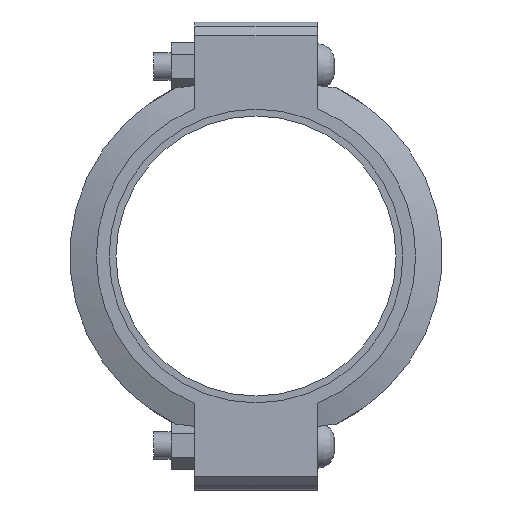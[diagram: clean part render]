
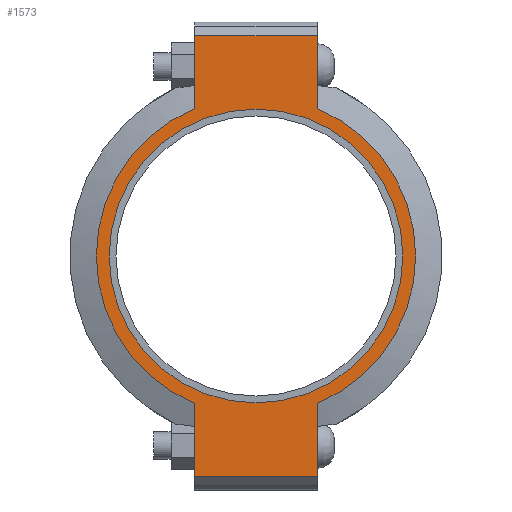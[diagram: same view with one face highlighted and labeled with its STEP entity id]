
A CAD part, left-side view. The second image highlights one B-rep face of the part: STEP entity #1573.
In plain terms, the highlighted planar face has unit normal (-1, 0, 0) as drawn and (0, 0, 1) by its records, which use the part's own axes.
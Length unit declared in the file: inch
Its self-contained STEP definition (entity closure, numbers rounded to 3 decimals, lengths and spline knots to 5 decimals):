
#144=LINE('',#2708,#233);
#155=LINE('',#2759,#244);
#161=LINE('',#2785,#250);
#163=LINE('',#2788,#252);
#164=LINE('',#2793,#253);
#165=LINE('',#2794,#254);
#233=VECTOR('',#2212,0.3937);
#244=VECTOR('',#2243,0.3937);
#250=VECTOR('',#2261,0.3937);
#252=VECTOR('',#2265,0.3937);
#253=VECTOR('',#2270,0.3937);
#254=VECTOR('',#2271,0.3937);
#316=FACE_BOUND('',#493,.T.);
#384=FACE_OUTER_BOUND('',#492,.T.);
#492=EDGE_LOOP('',(#1268,#1269,#1270,#1271,#1272,#1273,#1274,#1275));
#493=EDGE_LOOP('',(#1276));
#575=CIRCLE('',#1792,5.375);
#599=CIRCLE('',#1844,5.845);
#600=CIRCLE('',#1845,5.845);
#671=VERTEX_POINT('',#2534);
#712=VERTEX_POINT('',#2705);
#713=VERTEX_POINT('',#2707);
#730=VERTEX_POINT('',#2754);
#731=VERTEX_POINT('',#2758);
#738=VERTEX_POINT('',#2780);
#739=VERTEX_POINT('',#2784);
#740=VERTEX_POINT('',#2790);
#741=VERTEX_POINT('',#2792);
#835=EDGE_CURVE('',#671,#671,#575,.T.);
#892=EDGE_CURVE('',#713,#712,#144,.T.);
#913=EDGE_CURVE('',#731,#730,#155,.T.);
#924=EDGE_CURVE('',#739,#738,#161,.T.);
#926=EDGE_CURVE('',#739,#712,#163,.T.);
#927=EDGE_CURVE('',#738,#740,#599,.T.);
#928=EDGE_CURVE('',#740,#741,#164,.T.);
#929=EDGE_CURVE('',#731,#741,#165,.T.);
#930=EDGE_CURVE('',#730,#713,#600,.T.);
#1268=ORIENTED_EDGE('',*,*,#926,.F.);
#1269=ORIENTED_EDGE('',*,*,#924,.T.);
#1270=ORIENTED_EDGE('',*,*,#927,.T.);
#1271=ORIENTED_EDGE('',*,*,#928,.T.);
#1272=ORIENTED_EDGE('',*,*,#929,.F.);
#1273=ORIENTED_EDGE('',*,*,#913,.T.);
#1274=ORIENTED_EDGE('',*,*,#930,.T.);
#1275=ORIENTED_EDGE('',*,*,#892,.T.);
#1276=ORIENTED_EDGE('',*,*,#835,.T.);
#1413=PLANE('',#1843);
#1573=ADVANCED_FACE('',(#384,#316),#1413,.T.);
#1792=AXIS2_PLACEMENT_3D('',#2536,#2102,#2103);
#1843=AXIS2_PLACEMENT_3D('',#2789,#2266,#2267);
#1844=AXIS2_PLACEMENT_3D('',#2791,#2268,#2269);
#1845=AXIS2_PLACEMENT_3D('',#2795,#2272,#2273);
#2102=DIRECTION('center_axis',(0.,0.,-1.));
#2103=DIRECTION('ref_axis',(-1.,0.,0.));
#2212=DIRECTION('',(-1.,0.,0.));
#2243=DIRECTION('',(-1.,0.,0.));
#2261=DIRECTION('',(1.,0.,0.));
#2265=DIRECTION('',(0.,1.,0.));
#2266=DIRECTION('center_axis',(0.,0.,1.));
#2267=DIRECTION('ref_axis',(1.,0.,0.));
#2268=DIRECTION('center_axis',(0.,0.,1.));
#2269=DIRECTION('ref_axis',(-1.,0.,0.));
#2270=DIRECTION('',(1.,0.,0.));
#2271=DIRECTION('',(0.,-1.,0.));
#2272=DIRECTION('center_axis',(0.,0.,1.));
#2273=DIRECTION('ref_axis',(-1.,0.,0.));
#2534=CARTESIAN_POINT('',(5.375,0.,1.315));
#2536=CARTESIAN_POINT('Origin',(0.,0.,1.315));
#2705=CARTESIAN_POINT('',(-8.065,2.25,1.315));
#2707=CARTESIAN_POINT('',(-5.39458,2.25,1.315));
#2708=CARTESIAN_POINT('',(8.565,2.25,1.315));
#2754=CARTESIAN_POINT('',(5.39458,2.25,1.315));
#2758=CARTESIAN_POINT('',(8.065,2.25,1.315));
#2759=CARTESIAN_POINT('',(8.565,2.25,1.315));
#2780=CARTESIAN_POINT('',(-5.39458,-2.25,1.315));
#2784=CARTESIAN_POINT('',(-8.065,-2.25,1.315));
#2785=CARTESIAN_POINT('',(-8.565,-2.25,1.315));
#2788=CARTESIAN_POINT('',(-8.065,1.125,1.315));
#2789=CARTESIAN_POINT('Origin',(0.,0.,
1.315));
#2790=CARTESIAN_POINT('',(5.39458,-2.25,1.315));
#2791=CARTESIAN_POINT('Origin',(0.,0.,1.315));
#2792=CARTESIAN_POINT('',(8.065,-2.25,1.315));
#2793=CARTESIAN_POINT('',(-8.565,-2.25,1.315));
#2794=CARTESIAN_POINT('',(8.065,-1.125,1.315));
#2795=CARTESIAN_POINT('Origin',(0.,0.,1.315));
